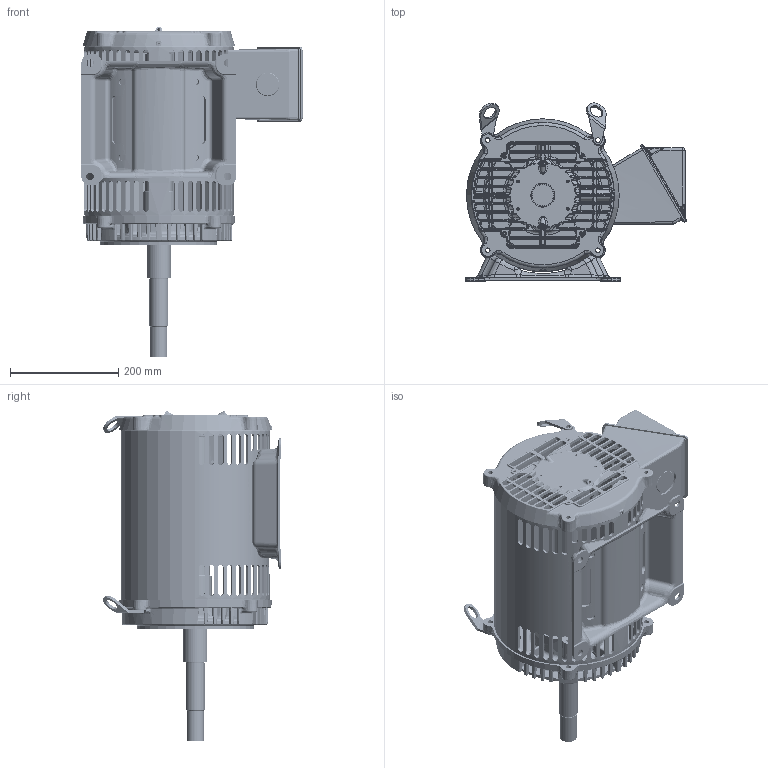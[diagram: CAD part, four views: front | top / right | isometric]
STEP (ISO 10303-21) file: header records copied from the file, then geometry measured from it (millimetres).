
FILE_DESCRIPTION((''),'2;1');
FILE_NAME('250_ODP_CFACE_ASM_ASM','2018-10-10T12:23:10',('emd2341'),('Nidec Motor Corporation'),'CREO PARAMETRIC BY PTC INC, 2018020','CREO PARAMETRIC BY PTC INC, 2018020','');
FILE_SCHEMA(('CONFIG_CONTROL_DESIGN'));
Length unit declared in the file: inch
Products named in the file (12): 2046004_AF2; 2035295-BKT_AF0; 2033996-005_AF0; 2028415_ASM; 2046094; 0183520; 0369733; 2075306; 0364282; 0364292; 0380742; 250_ODP_CFACE_ASM_ASM
Assembly tree (12 placements, depth 3):
  250_ODP_CFACE_ASM_ASM
    2046004_AF2
    2028415_ASM
      2035295-BKT_AF0
      2033996-005_AF0
    2046094
    0183520
    0369733  x2
    2075306
    0364282
    0364292
    0380742
Bounding box: 408.11 x 328.54 x 609.37 mm (x, y, z)
Volume: 4412331.4 mm3; surface area: 1501037.2 mm2
Topology: 13 solids, 20 shells, 4144 faces, 10255 edges, 6116 vertices
Faces by surface type: bspline 1485, cylinder 1057, plane 771, torus 387, cone 347, sphere 89, extrusion 8
Entity records: 204675 total; most frequent: CARTESIAN_POINT 117361, ORIENTED_EDGE 20350, DIRECTION 15241, EDGE_CURVE 10190, AXIS2_PLACEMENT_3D 6095, VERTEX_POINT 6092, EDGE_LOOP 4430, FACE_OUTER_BOUND 4126
